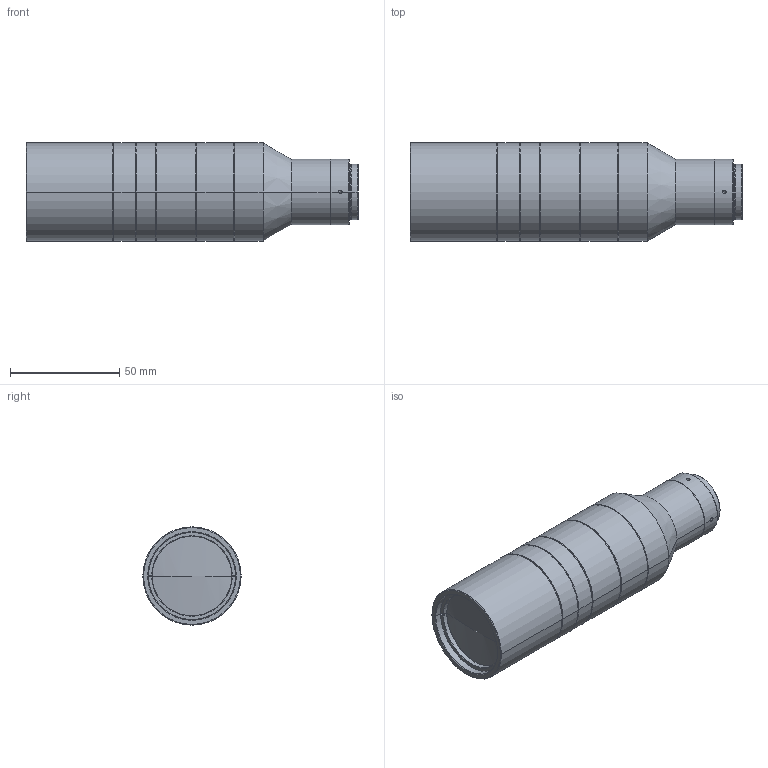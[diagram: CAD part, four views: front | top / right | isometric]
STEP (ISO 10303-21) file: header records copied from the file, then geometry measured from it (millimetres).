
FILE_DESCRIPTION((''),'2;1');
FILE_NAME('PRT0001','2022-11-12T14:57:17',('EVC2-5'),(''),'CREO PARAMETRIC BY PTC INC, 2020354','CREO PARAMETRIC BY PTC INC, 2020354','');
FILE_SCHEMA(('AUTOMOTIVE_DESIGN { 1 0 10303 214 1 1 1 1 }'));
Length unit declared in the file: millimetre
Products named in the file (1): PRT0001
Bounding box: 152.14 x 45 x 45 mm (x, y, z)
Volume: 195788.1 mm3; surface area: 27151.7 mm2
Topology: 1 solids, 5 shells, 192 faces, 423 edges, 248 vertices
Faces by surface type: cylinder 76, cone 74, plane 34, torus 4, sphere 4
Entity records: 5650 total; most frequent: CARTESIAN_POINT 1264, DIRECTION 991, ORIENTED_EDGE 828, AXIS2_PLACEMENT_3D 415, EDGE_CURVE 414, VERTEX_POINT 246, EDGE_LOOP 222, CIRCLE 222
